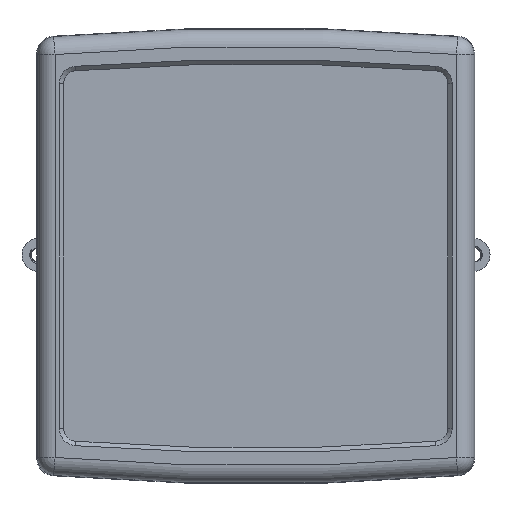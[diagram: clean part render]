
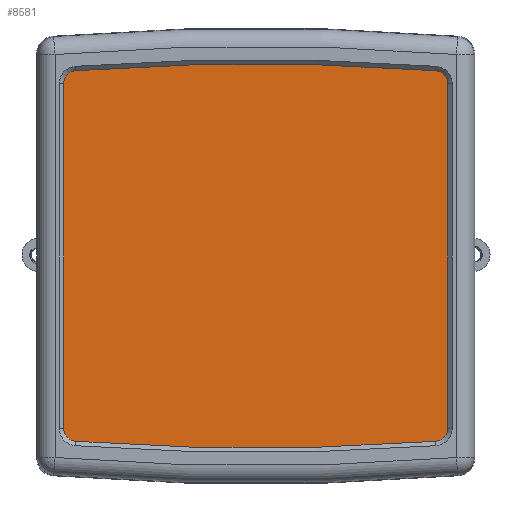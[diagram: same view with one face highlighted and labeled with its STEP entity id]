
A CAD part, front view. The second image highlights one B-rep face of the part: STEP entity #8581.
In plain terms, the highlighted planar face has unit normal (0, -1, 0).
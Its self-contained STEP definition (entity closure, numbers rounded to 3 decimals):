
#6511=PLANE('',#38216);
#8581=ADVANCED_FACE('',(#10698),#6511,.T.);
#10698=FACE_OUTER_BOUND('',#12282,.T.);
#12282=EDGE_LOOP('',(#22788,#22789,#22790,#22791,#22792,#22793,#22794,#22795));
#14343=LINE('',#71372,#17580);
#14344=LINE('',#71374,#17581);
#17580=VECTOR('',#41944,1.);
#17581=VECTOR('',#41947,1.);
#22788=ORIENTED_EDGE('',*,*,#33648,.T.);
#22789=ORIENTED_EDGE('',*,*,#33328,.T.);
#22790=ORIENTED_EDGE('',*,*,#33643,.F.);
#22791=ORIENTED_EDGE('',*,*,#33331,.T.);
#22792=ORIENTED_EDGE('',*,*,#33647,.T.);
#22793=ORIENTED_EDGE('',*,*,#33322,.T.);
#22794=ORIENTED_EDGE('',*,*,#33644,.F.);
#22795=ORIENTED_EDGE('',*,*,#33325,.T.);
#29938=VERTEX_POINT('',#70455);
#29939=VERTEX_POINT('',#70457);
#29940=VERTEX_POINT('',#70461);
#29941=VERTEX_POINT('',#70463);
#29942=VERTEX_POINT('',#70467);
#29943=VERTEX_POINT('',#70469);
#29944=VERTEX_POINT('',#70473);
#29945=VERTEX_POINT('',#70475);
#33322=EDGE_CURVE('',#29938,#29939,#36966,.T.);
#33325=EDGE_CURVE('',#29940,#29941,#36967,.T.);
#33328=EDGE_CURVE('',#29942,#29943,#36968,.T.);
#33331=EDGE_CURVE('',#29944,#29945,#36969,.T.);
#33643=EDGE_CURVE('',#29944,#29943,#14343,.T.);
#33644=EDGE_CURVE('',#29940,#29939,#14344,.T.);
#33647=EDGE_CURVE('',#29945,#29938,#37057,.T.);
#33648=EDGE_CURVE('',#29941,#29942,#37058,.T.);
#36966=CIRCLE('',#37987,3.);
#36967=CIRCLE('',#37989,3.);
#36968=CIRCLE('',#37991,3.);
#36969=CIRCLE('',#37993,3.);
#37057=CIRCLE('',#38212,543.401);
#37058=CIRCLE('',#38214,543.401);
#37987=AXIS2_PLACEMENT_3D('',#70458,#41321,#41322);
#37989=AXIS2_PLACEMENT_3D('',#70464,#41327,#41328);
#37991=AXIS2_PLACEMENT_3D('',#70470,#41333,#41334);
#37993=AXIS2_PLACEMENT_3D('',#70476,#41339,#41340);
#38212=AXIS2_PLACEMENT_3D('',#71386,#41968,#41969);
#38214=AXIS2_PLACEMENT_3D('',#71388,#41972,#41973);
#38216=AXIS2_PLACEMENT_3D('',#71390,#41976,#41977);
#41321=DIRECTION('',(0.,-1.,0.));
#41322=DIRECTION('',(0.,0.,-1.));
#41327=DIRECTION('',(0.,-1.,0.));
#41328=DIRECTION('',(0.,0.,-1.));
#41333=DIRECTION('',(0.,-1.,0.));
#41334=DIRECTION('',(0.,0.,-1.));
#41339=DIRECTION('',(0.,-1.,0.));
#41340=DIRECTION('',(0.,0.,-1.));
#41944=DIRECTION('',(0.,0.,-1.));
#41947=DIRECTION('',(0.,0.,1.));
#41968=DIRECTION('',(0.,-1.,0.));
#41969=DIRECTION('',(0.,0.,-1.));
#41972=DIRECTION('',(0.,-1.,0.));
#41973=DIRECTION('',(0.,0.,-1.));
#41976=DIRECTION('',(0.,-1.,0.));
#41977=DIRECTION('',(0.,0.,-1.));
#70455=CARTESIAN_POINT('',(-40.795,1.642,41.901));
#70457=CARTESIAN_POINT('',(-43.57,1.642,38.91));
#70458=CARTESIAN_POINT('',(-40.57,1.642,38.91));
#70461=CARTESIAN_POINT('',(-43.57,1.642,-39.051));
#70463=CARTESIAN_POINT('',(-40.795,1.642,-42.042));
#70464=CARTESIAN_POINT('',(-40.57,1.642,-39.051));
#70467=CARTESIAN_POINT('',(40.654,1.642,-42.042));
#70469=CARTESIAN_POINT('',(43.43,1.642,-39.051));
#70470=CARTESIAN_POINT('',(40.43,1.642,-39.051));
#70473=CARTESIAN_POINT('',(43.43,1.642,38.91));
#70475=CARTESIAN_POINT('',(40.654,1.642,41.901));
#70476=CARTESIAN_POINT('',(40.43,1.642,38.91));
#71372=CARTESIAN_POINT('',(43.43,1.642,-499.972));
#71374=CARTESIAN_POINT('',(-43.57,1.642,-499.972));
#71386=CARTESIAN_POINT('',(-0.07,1.642,-499.972));
#71388=CARTESIAN_POINT('',(-0.07,1.642,499.831));
#71390=CARTESIAN_POINT('',(-44.062,1.642,47.062));
